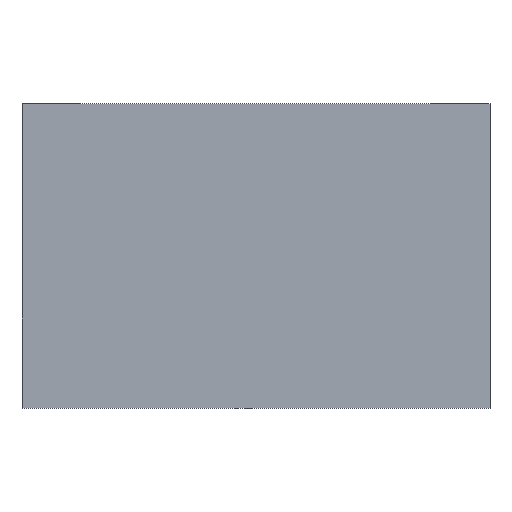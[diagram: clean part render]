
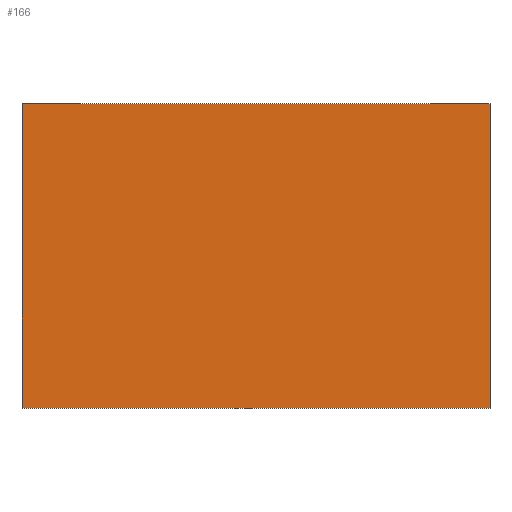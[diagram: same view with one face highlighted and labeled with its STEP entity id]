
A CAD part, top view. The second image highlights one B-rep face of the part: STEP entity #166.
In plain terms, the highlighted planar face has unit normal (0, 0, 1).
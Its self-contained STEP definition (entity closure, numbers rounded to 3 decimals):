
#7 = VERTEX_POINT ( 'NONE', #516 ) ;
#13 = DIRECTION ( 'NONE',  ( 0., 1., 0. ) ) ;
#48 = DIRECTION ( 'NONE',  ( 0., -1., 0. ) ) ;
#51 = CARTESIAN_POINT ( 'NONE',  ( 10., -1.9, 0. ) ) ;
#55 = VECTOR ( 'NONE', #429, 1000. ) ;
#57 = EDGE_CURVE ( 'NONE', #411, #125, #232, .T. ) ;
#58 = VECTOR ( 'NONE', #217, 1000. ) ;
#75 = VERTEX_POINT ( 'NONE', #368 ) ;
#85 = ORIENTED_EDGE ( 'NONE', *, *, #57, .F. ) ;
#95 = DIRECTION ( 'NONE',  ( -1., 0., 0. ) ) ;
#99 = CARTESIAN_POINT ( 'NONE',  ( 10., 11.1, 0. ) ) ;
#125 = VERTEX_POINT ( 'NONE', #51 ) ;
#137 = LINE ( 'NONE', #99, #246 ) ;
#141 = CARTESIAN_POINT ( 'NONE',  ( 10., 11.1, 0. ) ) ;
#166 = ADVANCED_FACE ( 'NONE', ( #384 ), #293, .F. ) ;
#174 = LINE ( 'NONE', #525, #474 ) ;
#217 = DIRECTION ( 'NONE',  ( -1., 0., 0. ) ) ;
#232 = LINE ( 'NONE', #364, #55 ) ;
#246 = VECTOR ( 'NONE', #95, 1000. ) ;
#293 = PLANE ( 'NONE',  #595 ) ;
#362 = ORIENTED_EDGE ( 'NONE', *, *, #385, .T. ) ;
#364 = CARTESIAN_POINT ( 'NONE',  ( 10., 11.1, 0. ) ) ;
#368 = CARTESIAN_POINT ( 'NONE',  ( -10., 11.1, 0. ) ) ;
#376 = EDGE_CURVE ( 'NONE', #75, #7, #174, .T. ) ;
#384 = FACE_OUTER_BOUND ( 'NONE', #539, .T. ) ;
#385 = EDGE_CURVE ( 'NONE', #411, #75, #137, .T. ) ;
#389 = ORIENTED_EDGE ( 'NONE', *, *, #376, .T. ) ;
#411 = VERTEX_POINT ( 'NONE', #580 ) ;
#415 = CARTESIAN_POINT ( 'NONE',  ( 10., -1.9, 0. ) ) ;
#429 = DIRECTION ( 'NONE',  ( 0., -1., 0. ) ) ;
#457 = ORIENTED_EDGE ( 'NONE', *, *, #534, .F. ) ;
#474 = VECTOR ( 'NONE', #48, 1000. ) ;
#509 = LINE ( 'NONE', #415, #58 ) ;
#516 = CARTESIAN_POINT ( 'NONE',  ( -10., -1.9, 0. ) ) ;
#525 = CARTESIAN_POINT ( 'NONE',  ( -10., 11.1, 0. ) ) ;
#534 = EDGE_CURVE ( 'NONE', #125, #7, #509, .T. ) ;
#536 = DIRECTION ( 'NONE',  ( 0., 0., -1. ) ) ;
#539 = EDGE_LOOP ( 'NONE', ( #362, #389, #457, #85 ) ) ;
#580 = CARTESIAN_POINT ( 'NONE',  ( 10., 11.1, 0. ) ) ;
#595 = AXIS2_PLACEMENT_3D ( 'NONE', #141, #536, #13 ) ;
